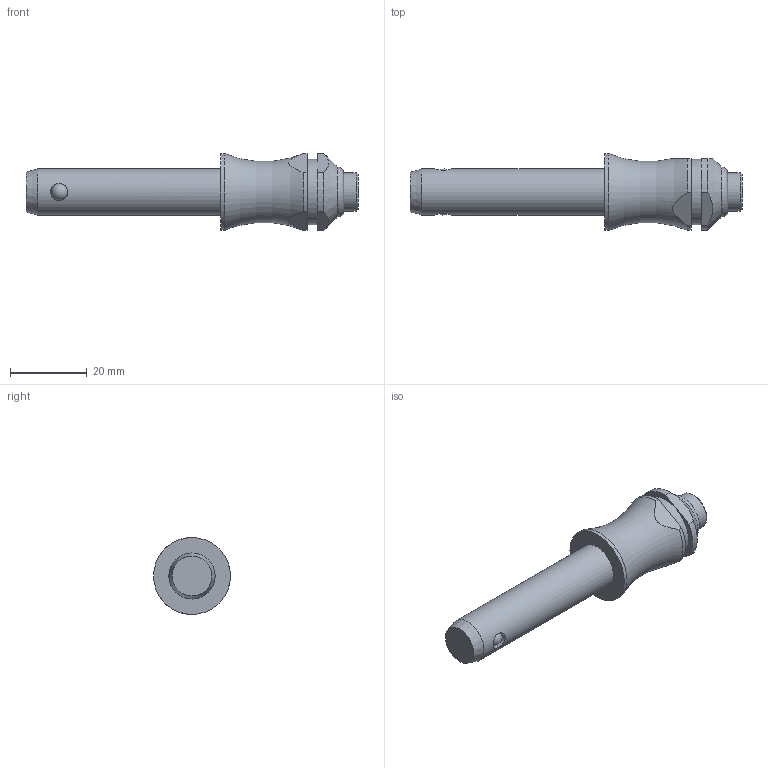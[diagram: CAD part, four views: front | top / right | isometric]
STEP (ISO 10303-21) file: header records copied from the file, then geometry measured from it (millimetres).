
FILE_DESCRIPTION( ( 'STEP AP203' ), '1' );
FILE_NAME( 'C:/Temp/Ganter_Step_05_03_2020/data/3_1/gn113_3/Stainless Steel-Ball lock pin GN 113.3-12-40 (activated).stp', '2020-03-12T08:18:43', ( 'License CC BY-ND 4.0' ), ( 'CADENAS' ), ' ', 'PARTsolutions', ' ' );
FILE_SCHEMA( ( 'CONFIG_CONTROL_DESIGN' ) );
Length unit declared in the file: millimetre
Products named in the file (1): _Stainless Steel-Ball lock pin GN 113.3-12-40 (activated)
Bounding box: 86.35 x 20 x 20 mm (x, y, z)
Volume: 13328 mm3; surface area: 4424.4 mm2
Topology: 1 solids, 1 shells, 30 faces, 72 edges, 45 vertices
Faces by surface type: cylinder 12, plane 11, cone 3, torus 2, sphere 2
Full cylindrical faces by diameter (mm): 4.4 x2, 10 x1, 12 x1, 17 x1, 20 x1
Entity records: 1010 total; most frequent: CARTESIAN_POINT 360, DIRECTION 130, ORIENTED_EDGE 102, AXIS2_PLACEMENT_3D 56, EDGE_CURVE 51, EDGE_LOOP 46, VERTEX_POINT 40, FACE_OUTER_BOUND 38
